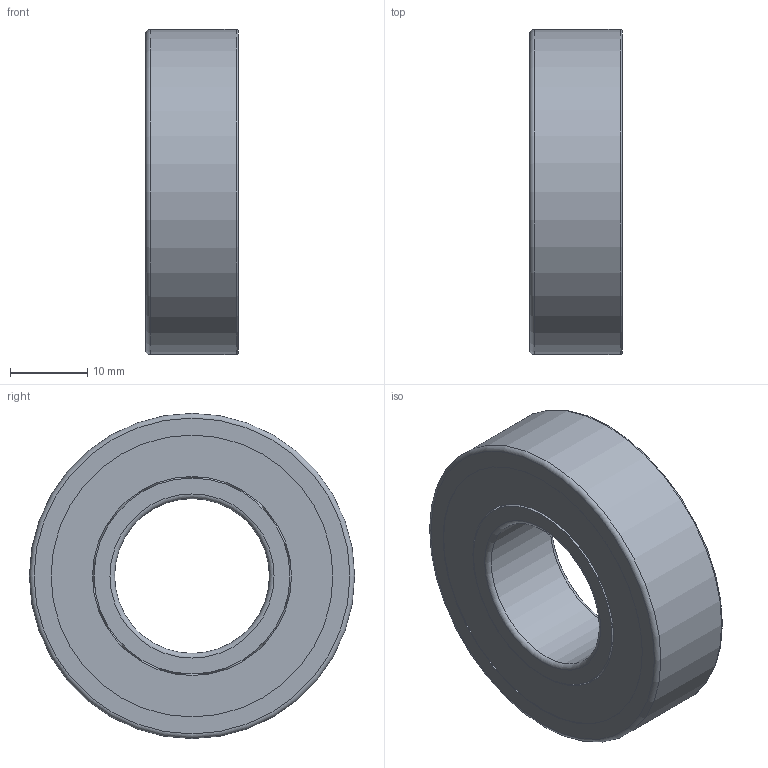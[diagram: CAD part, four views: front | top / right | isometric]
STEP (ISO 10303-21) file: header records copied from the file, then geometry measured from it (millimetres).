
FILE_DESCRIPTION(/* description */ (''),/* implementation_level */ '2;1');
FILE_NAME(/* name */ 'KH_6004_TA.step',/* time_stamp */ '2013-03-07T07:04:05+01:00',/* author */ ('Marian'),/* organization */ ('GMN'),/* preprocessor_version */ 'ST-DEVELOPER v11',/* originating_system */ 'SIEMENS UGS NX 6.0',/* authorisation */ '');
FILE_SCHEMA (('CONFIG_CONTROL_DESIGN'));
Length unit declared in the file: millimetre
Products named in the file (1): KH_6004_TA
Bounding box: 12 x 42 x 42 mm (x, y, z)
Volume: 10180.2 mm3; surface area: 11426 mm2
Topology: 19 solids, 19 shells, 60 faces, 140 edges, 90 vertices
Faces by surface type: cylinder 27, sphere 14, plane 12, torus 6, cone 1
Full cylindrical faces by diameter (mm): 5.756 x14, 20 x1, 25.3 x1, 25.7 x1, 26.6 x1, 27 x1, 29.976 x1, 33.352 x1, 33.752 x1, 36.4 x2, 38 x2, 42 x1
Entity records: 2898 total; most frequent: CARTESIAN_POINT 1791, DIRECTION 186, FACE_BOUND 134, EDGE_LOOP 120, ORIENTED_EDGE 120, AXIS2_PLACEMENT_3D 93, VERTEX_POINT 74, ADVANCED_FACE 60
